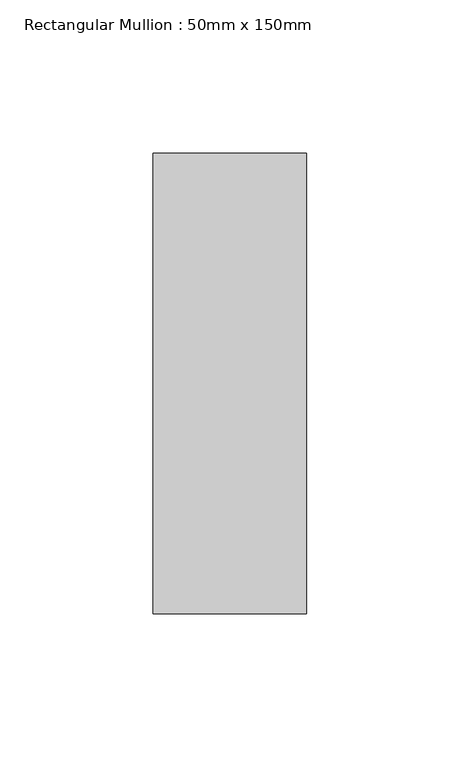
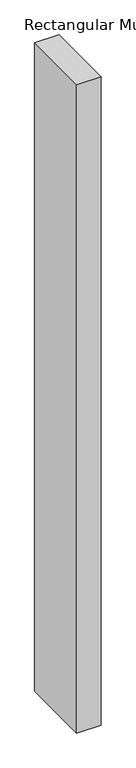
"""IFC4 building model written with IfcOpenShell, lengths in millimetres: member geometry, Rectangular Mullion : 50mm x 150mm."""

from ifc_helpers import new_model, si_unit, frame, origin, place, context, project, spatial, polyline, outline, extrude, source, transform, mapped, element, save


def rectangular_mullion_50mm_x_150mm_a28728bf(model_context):
    return source(origin(), model_context, "Body", "SweptSolid", [
        extrude(outline(polyline([(25.0, 75.0), (25.0, -75.0), (-25.0, -75.0), (-25.0, 75.0), (25.0, 75.0)])), frame((0.0, 0.0, -1415.0), z_axis=(0.0, 0.0, 1.0), x_axis=(1.0, 0.0, 0.0)), (0.0, 0.0, 1.0), 1415.0),
    ])


if __name__ == "__main__":
    model = new_model("IFC4")
    model_context = context("Model", 3, world=origin())
    ifc_project = project(units=[si_unit("LENGTHUNIT", "METRE", prefix="MILLI")], contexts=[model_context])
    site = spatial("IfcSite", under=ifc_project)
    building = spatial("IfcBuilding", under=site)
    placement = place(None, origin())
    rectangular_mullion_50mm_x_150mm_shape = rectangular_mullion_50mm_x_150mm_a28728bf(model_context)
    element("IfcMember", 1, ObjectType="Rectangular Mullion : 50mm x 150mm", at=placement, inside=building, context=model_context, shape_type="MappedRepresentation", body=[
        mapped(rectangular_mullion_50mm_x_150mm_shape, transform((0.0, 0.0, 0.0), x_axis=(1.0, 0.0, 0.0), y_axis=(0.0, 1.0, 0.0), z_axis=(0.0, 0.0, 1.0))),
    ])
    save(model, "model.ifc")
